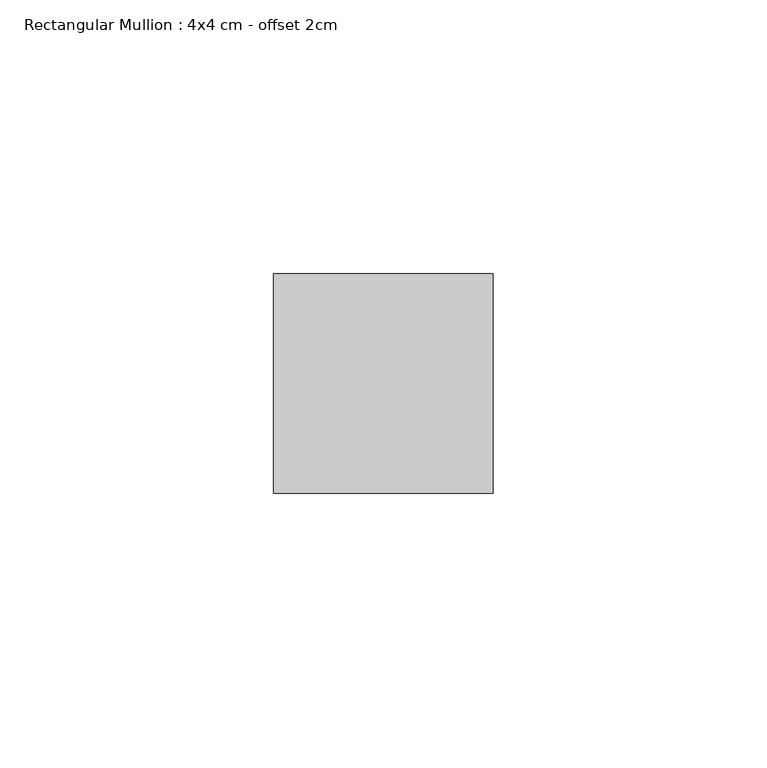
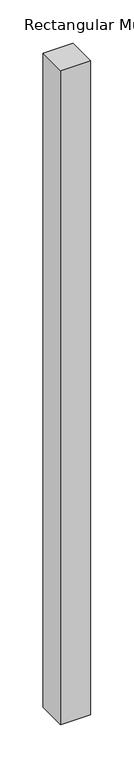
"""IFC4 building model written with IfcOpenShell, lengths in millimetres: member geometry, Rectangular Mullion : 4x4 cm - offset 2cm."""

from ifc_helpers import new_model, si_unit, frame, origin, place, context, project, spatial, polyline, outline, extrude, source, transform, mapped, element, save


def rectangular_mullion_4x4_cm_offset_2cm_ef480744(model_context):
    return source(origin(), model_context, "Body", "SweptSolid", [
        extrude(outline(polyline([(40.0, 40.0), (40.0, 0.0), (0.0, 0.0), (0.0, 40.0), (40.0, 40.0)])), frame((0.0, 0.0, -920.0), z_axis=(0.0, 0.0, 1.0), x_axis=(1.0, 0.0, 0.0)), (0.0, 0.0, 1.0), 920.0),
    ])


if __name__ == "__main__":
    model = new_model("IFC4")
    model_context = context("Model", 3, world=origin())
    ifc_project = project(units=[si_unit("LENGTHUNIT", "METRE", prefix="MILLI")], contexts=[model_context])
    site = spatial("IfcSite", under=ifc_project)
    building = spatial("IfcBuilding", under=site)
    placement = place(None, origin())
    rectangular_mullion_4x4_cm_offset_2cm_shape = rectangular_mullion_4x4_cm_offset_2cm_ef480744(model_context)
    element("IfcMember", 1, ObjectType="Rectangular Mullion : 4x4 cm - offset 2cm", at=placement, inside=building, context=model_context, shape_type="MappedRepresentation", body=[
        mapped(rectangular_mullion_4x4_cm_offset_2cm_shape, transform((0.0, 0.0, 0.0), x_axis=(1.0, 0.0, 0.0), y_axis=(0.0, 1.0, 0.0), z_axis=(0.0, 0.0, 1.0))),
    ])
    save(model, "model.ifc")
